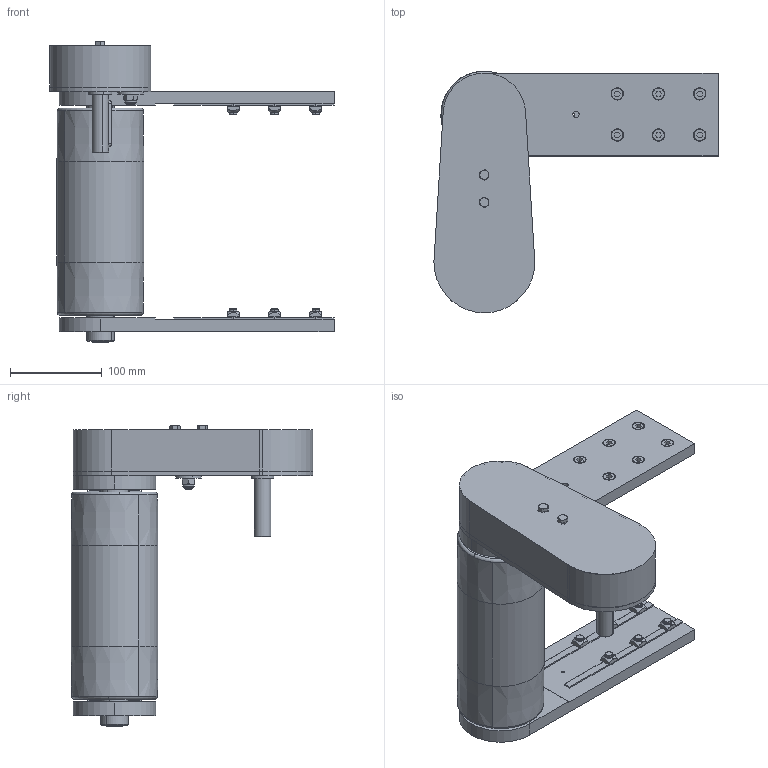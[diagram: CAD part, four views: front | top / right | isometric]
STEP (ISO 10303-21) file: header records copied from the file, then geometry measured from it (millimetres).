
FILE_DESCRIPTION (( 'STEP AP203' ), '1' );
FILE_NAME ('084.095.KTB.44.200.step', '2013-02-28T12:04:02', ( '' ), ( '' ), 'SwSTEP 2.0', 'SolidWorks 2011', '' );
FILE_SCHEMA (( 'CONFIG_CONTROL_DESIGN' ));
Length unit declared in the file: millimetre
Products named in the file (28): 084.821.002; 084.809.003; 084.813.002; 084.812.003; 084.802.019_084.802.019; 084.802.034_084.802.034; 084.808.002_084.808.002; 084.810.003; 084.808.003_084.808.003; 084.095.KTB.44.200; Hex Screw GradeC_ALUSIC_ISO 4018 - M8 x 20-NS; Hex Screw GradeC_ALUSIC_ISO 4018 - M6 x 50-NS; ANELLI ELASTICI PER ESTERNI UNI 7435-75_Circlip DIN 471 - 30 x 1.5; CHIAVETTE_A 8x7x25 UNI 6604-69; CHIAVETTE_A 6x6x50 UNI 6604-69; Specchiatura084.302.000 DADI ALUSIC 13x13_084.302.004; 084.301.000 VITI ALUSIC_084.301.003; 084.302.000 DADI ALUSIC 13x13_084.302.004; 084.821.003; 084.810.006; Circlip for Shafts normal_din_Circlip DIN 471 - 8 x 0.8; Plain Washer XLarge Grade C_ALUSIC_Washer ISO 7094 - 8; Torque nut 01_ALUSIC_ISO 7040-M8-S; CUSCINETTI A SFERE_608-2RS; 084.810.008; 084.816.101_084.816.107<A macchina>; 084.813.004; 084.809.001
Assembly tree (59 placements, depth 3):
  084.095.KTB.44.200
    CHIAVETTE_A 8x7x25 UNI 6604-69  x3
    084.301.000 VITI ALUSIC_084.301.003  x12
    084.821.002  x2
    Specchiatura084.302.000 DADI ALUSIC 13x13_084.302.004  x6
    084.810.006
      084.810.008
      CUSCINETTI A SFERE_608-2RS  x3
      Torque nut 01_ALUSIC_ISO 7040-M8-S
      Plain Washer XLarge Grade C_ALUSIC_Washer ISO 7094 - 8
      Circlip for Shafts normal_din_Circlip DIN 471 - 8 x 0.8
    084.808.003_084.808.003
    ANELLI ELASTICI PER ESTERNI UNI 7435-75_Circlip DIN 471 - 30 x 1.5  x2
    CHIAVETTE_A 6x6x50 UNI 6604-69
    084.302.000 DADI ALUSIC 13x13_084.302.004  x6
    084.813.004
    084.802.019_084.802.019
    084.816.101_084.816.107<A macchina>
    Hex Screw GradeC_ALUSIC_ISO 4018 - M8 x 20-NS  x4
    Hex Screw GradeC_ALUSIC_ISO 4018 - M6 x 50-NS  x2
    084.821.003
    084.812.003
    084.813.002
    084.808.002_084.808.002
    084.802.034_084.802.034
    084.810.003  x2
    084.809.003
    084.809.001
Bounding box: 310 x 263.87 x 327.88 mm (x, y, z)
Volume: 1696176.5 mm3; surface area: 703880.4 mm2
Topology: 63 solids, 64 shells, 2824 faces, 7303 edges, 4674 vertices
Faces by surface type: cylinder 1020, plane 856, cone 817, torus 122, sphere 9
Entity records: 54426 total; most frequent: CARTESIAN_POINT 9747, DIRECTION 9188, ORIENTED_EDGE 8292, EDGE_CURVE 4146, AXIS2_PLACEMENT_3D 3514, VERTEX_POINT 2669, LINE 2160, VECTOR 2160
